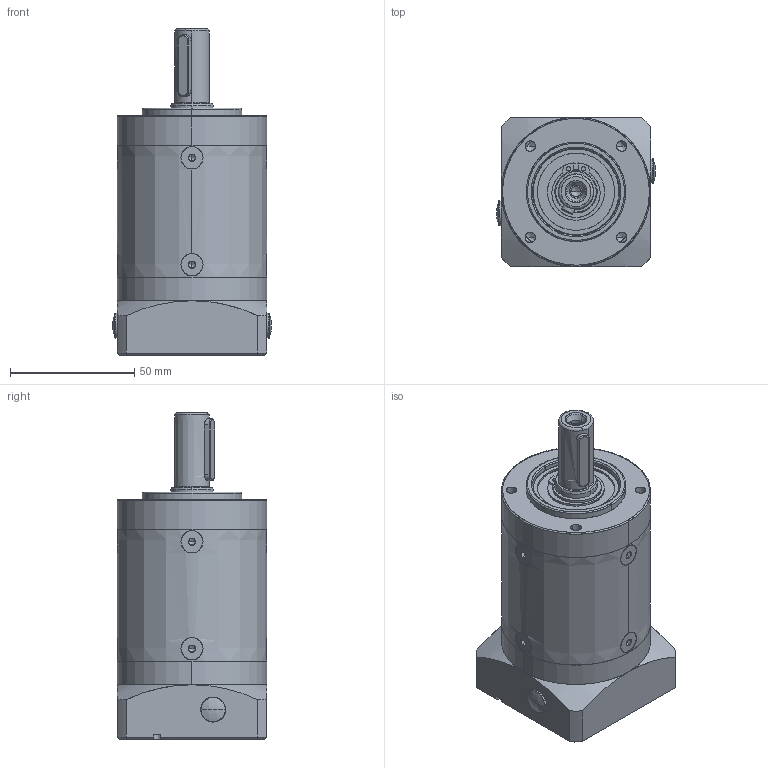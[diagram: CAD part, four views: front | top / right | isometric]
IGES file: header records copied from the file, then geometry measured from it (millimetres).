
Start section: SolidWorks IGES file using analytic representation for surfaces
Global section: file name: C:\TeknicPDM\Remarketed and Private Label Products\Gearboxes\Gearbox Customer Files\GSLL (Newstart PL Series)\GSLL-060-0_ _-N023_-XX Two Stage.IGS; native system: SolidWorks 2020; preprocessor: SolidWorks 2020; author: zeb_koch; date: 250826.105251; units: millimetre
Bounding box: 63.92 x 60 x 131.5 mm (x, y, z)
Surface area: 85583.1 mm2 (no closed solid volume)
Topology: 0 solids, 0 shells, 1142 faces, 22624 edges, 22542 vertices
Faces by surface type: bspline 611, revolution 531
